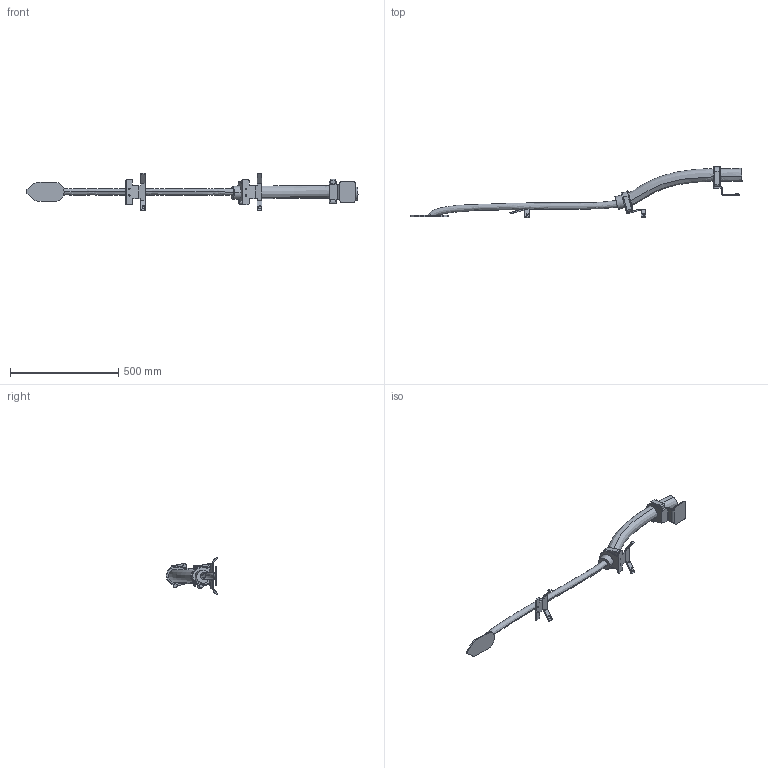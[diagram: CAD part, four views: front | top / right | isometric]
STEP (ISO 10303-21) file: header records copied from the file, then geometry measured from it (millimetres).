
FILE_DESCRIPTION (( 'STEP AP214' ), '1' );
FILE_NAME ('IRB6760-MH3_150kg-350-OC_00_LINK04_CABLE.step', '2025-09-30T13:10:41', ( '' ), ( '' ), 'SwSTEP 2.0', 'SolidWorks 2024', '' );
FILE_SCHEMA (( 'AUTOMOTIVE_DESIGN' ));
Length unit declared in the file: millimetre
Products named in the file (1): IRB6760-MH3_150kg-350-OC_00_LINK04_CABLE
Bounding box: 1536.5 x 238.26 x 174.65 mm (x, y, z)
Volume: 2868123.3 mm3; surface area: 338236.3 mm2
Topology: 1 solids, 3 shells, 341 faces, 895 edges, 570 vertices
Faces by surface type: plane 227, cylinder 108, bspline 6
Entity records: 16846 total; most frequent: CARTESIAN_POINT 4519, ORIENTED_EDGE 1790, DIRECTION 1787, EDGE_CURVE 895, LINE 627, VECTOR 627, AXIS2_PLACEMENT_3D 580, VERTEX_POINT 570
